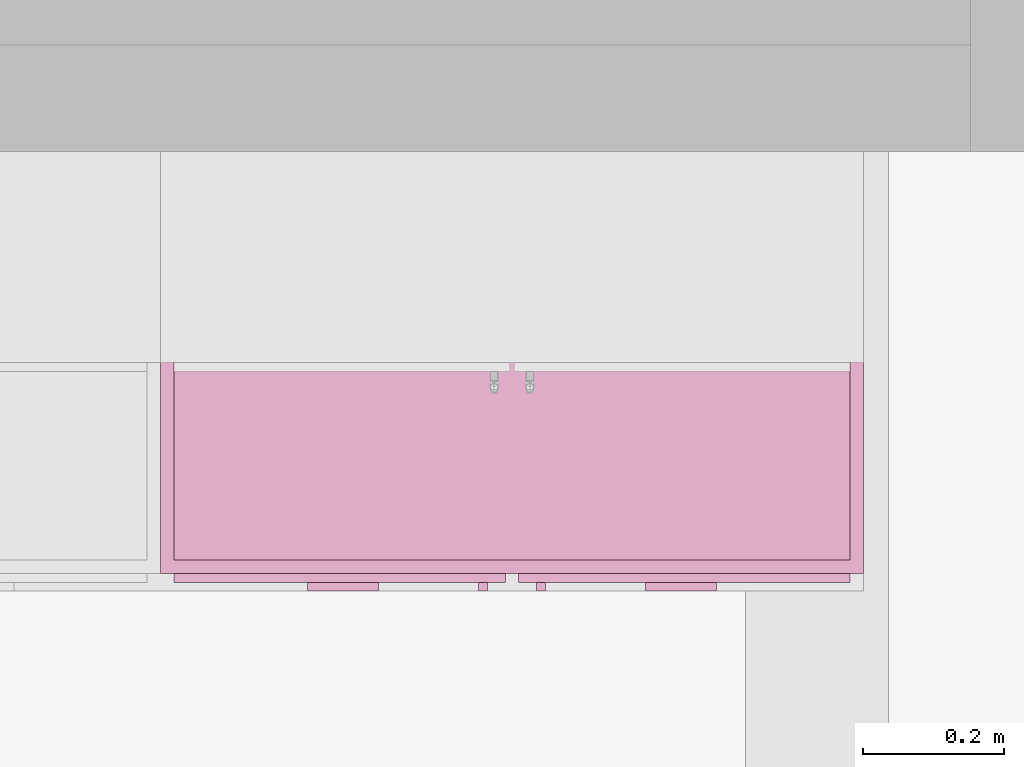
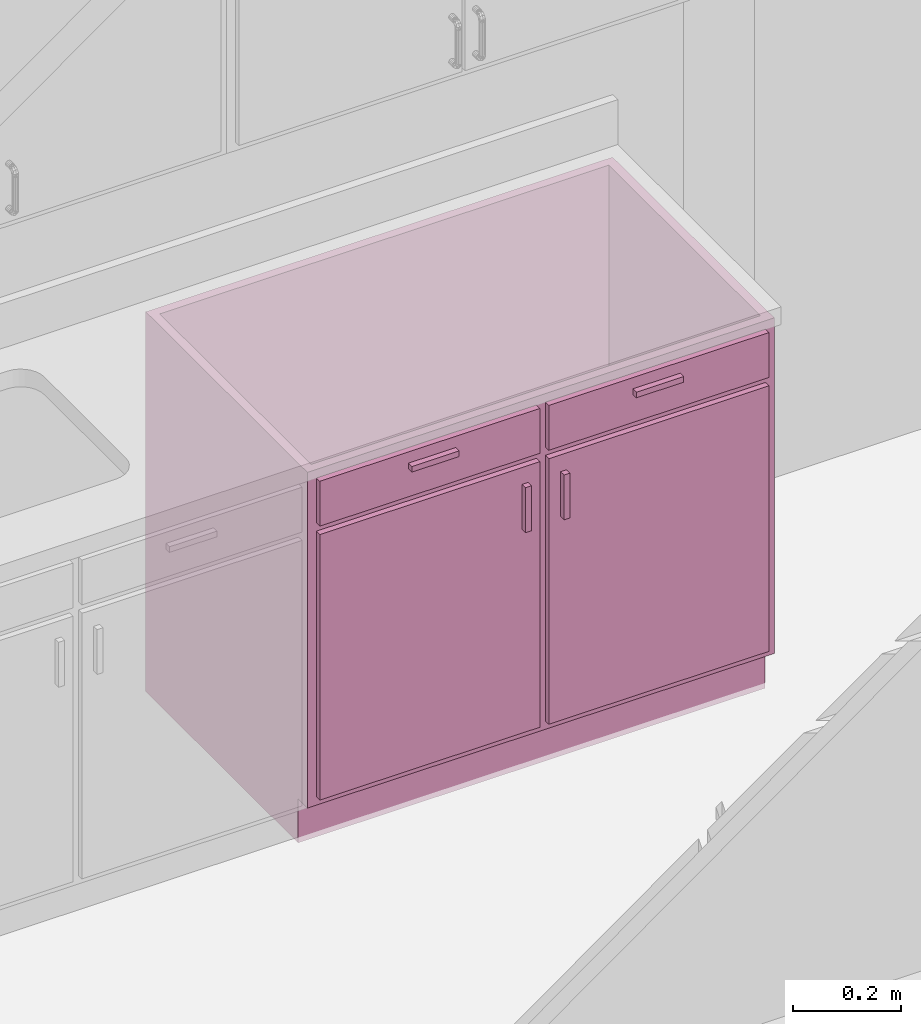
# One storey, part 7 of 14: 1 furnishing.
"""IFC4 building model written with IfcOpenShell, lengths in metres."""

from ifc_helpers import new_model, entity, si_unit, converted_unit, frame, origin, place, context, project, spatial, face_set, surface_model, source, transform, mapped, element, save


model = new_model("IFC4")

# Units and contexts
model_context = context("Model", 3, precision=1e-09, world=origin())
plan_context = context("Plan", 3, precision=1e-09, world=origin())
ifc_project = project(units=[si_unit("LENGTHUNIT", "METRE"), si_unit("AREAUNIT", "SQUARE_METRE"), si_unit("VOLUMEUNIT", "CUBIC_METRE"), converted_unit("PLANEANGLEUNIT", "DEGREE", entity("IfcRatioMeasure", 0.01745329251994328), si_unit("PLANEANGLEUNIT", "RADIAN"), dimensions=[0, 0, 0, 0, 0, 0, 0]), si_unit("TIMEUNIT", "SECOND")], contexts=[model_context, plan_context])

# Site, building, storey, space
site_placement = place(None, origin())
site = spatial("IfcSite", under=ifc_project, at=site_placement, Name="Default", CompositionType="ELEMENT")
building_placement = place(site_placement, origin())
building = spatial("IfcBuilding", under=site, at=building_placement, CompositionType="ELEMENT")
storey_placement = place(building_placement, origin())
storey = spatial("IfcBuildingStorey", under=building, at=storey_placement, Name="Level 1", CompositionType="ELEMENT", Elevation=0.0)
space_placement = place(storey_placement, origin())
space = spatial("IfcSpace", under=storey, at=space_placement, Name="A103", CompositionType="ELEMENT", PredefinedType="INTERNAL")

# Furnishing
shared_shape = source(origin(), model_context, "Body", "SurfaceModel", [
    surface_model("IfcFaceBasedSurfaceModel", [(0.9809499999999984, 0.04445000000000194, 0.8600000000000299), (0.9809499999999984, 0.04445000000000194, 0.0999999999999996), (0.01905000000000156, 0.04445000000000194, 0.0999999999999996), (0.01905000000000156, 0.04445000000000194, 0.8600000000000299), (1.0, 0.02540000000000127, 0.8600000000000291), (0.0, 0.02540000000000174, 0.8600000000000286), (1.0, 0.02540000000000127, 0.0999999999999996), (0.0, 0.02540000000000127, 0.09999999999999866), (0.01905000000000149, 0.606349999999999, 0.8600000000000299), (0.01905000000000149, 0.606349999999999, 0.09999999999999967), (0.01905000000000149, 0.06040000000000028, 0.0999999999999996), (0.0, 0.6253999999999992, 0.8600000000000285), (0.0, 0.6254000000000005, 0.0), (0.0, 0.06040000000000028, 0.0), (0.0, 0.06040000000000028, 0.09999999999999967), (0.9809499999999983, 0.6063499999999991, 0.8600000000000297), (0.9809499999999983, 0.6063499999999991, 0.09999999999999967), (1.0, 0.6253999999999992, 0.8600000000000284), (1.0, 0.6253999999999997, 0.0), (0.9809499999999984, 0.06040000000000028, 0.09999999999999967), (1.0, 0.06040000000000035, 0.09999999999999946), (1.0, 0.06040000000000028, 0.0), (0.3103250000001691, 0.0, 0.815550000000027), (0.3103250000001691, 0.0, 0.8028500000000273), (0.2087250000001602, 0.0, 0.8028500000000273), (0.2087250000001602, 0.0, 0.815550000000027), (0.7912750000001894, 0.0, 0.815550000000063), (0.7912750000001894, 0.0, 0.8028500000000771), (0.6896750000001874, 0.0, 0.8028500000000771), (0.6896750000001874, 0.0, 0.815550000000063), (0.4650750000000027, 0.0, 0.6822000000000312), (0.4650750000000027, 0.0, 0.5806000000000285), (0.4523750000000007, 0.0, 0.5806000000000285), (0.4523750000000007, 0.0, 0.6822000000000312), (0.5476249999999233, 0.0, 0.6822000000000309), (0.5476249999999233, 0.0, 0.5806000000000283), (0.5349249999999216, 0.0, 0.5806000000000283), (0.5349249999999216, 0.0, 0.6822000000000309), (0.3103250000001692, 0.01270000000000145, 0.815550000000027), (0.3103250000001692, 0.01270000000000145, 0.8028500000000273), (0.2087250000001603, 0.01270000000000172, 0.8028500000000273), (0.2087250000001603, 0.01270000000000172, 0.815550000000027), (0.7912750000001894, 0.01269999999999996, 0.815550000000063), (0.7912750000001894, 0.01269999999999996, 0.8028500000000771), (0.6896750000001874, 0.01270000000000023, 0.8028500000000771), (0.6896750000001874, 0.01270000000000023, 0.815550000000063), (0.4650750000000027, 0.0127000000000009, 0.6822000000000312), (0.4650750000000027, 0.0127000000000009, 0.5806000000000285), (0.4523750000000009, 0.0127000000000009, 0.5806000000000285), (0.4523750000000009, 0.0127000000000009, 0.6822000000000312), (0.5476249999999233, 0.01270000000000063, 0.6822000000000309), (0.5476249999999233, 0.01270000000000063, 0.5806000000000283), (0.5349249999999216, 0.01270000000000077, 0.5806000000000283), (0.5349249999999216, 0.01270000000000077, 0.6822000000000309), (0.4904749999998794, 0.0127000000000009, 0.840950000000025), (0.4904749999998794, 0.0127000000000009, 0.7393500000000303), (0.01905000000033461, 0.01270000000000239, 0.7393500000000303), (0.01905000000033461, 0.01270000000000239, 0.840950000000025), (0.9809500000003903, 0.01269999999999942, 0.8409500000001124), (0.9809500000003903, 0.01269999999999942, 0.7393500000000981), (0.509524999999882, 0.0127000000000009, 0.7393500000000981), (0.509524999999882, 0.0127000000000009, 0.8409500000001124), (0.4904749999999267, 0.0127000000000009, 0.7203000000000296), (0.4904749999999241, 0.0127000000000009, 0.119049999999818), (0.01905000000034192, 0.01270000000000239, 0.119049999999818), (0.01905000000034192, 0.01270000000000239, 0.7203000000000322), (0.9809500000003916, 0.01269999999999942, 0.7203000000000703), (0.9809500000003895, 0.01269999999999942, 0.1190499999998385), (0.5095249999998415, 0.0127000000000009, 0.1190499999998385), (0.5095249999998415, 0.0127000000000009, 0.7203000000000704), (0.4904749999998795, 0.02540000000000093, 0.840950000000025), (0.4904749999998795, 0.02540000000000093, 0.7393500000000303), (0.01905000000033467, 0.02540000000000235, 0.7393500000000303), (0.01905000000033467, 0.02540000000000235, 0.840950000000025), (0.9809500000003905, 0.02539999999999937, 0.8409500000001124), (0.9809500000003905, 0.02539999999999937, 0.7393500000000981), (0.5095249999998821, 0.02540000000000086, 0.7393500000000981), (0.5095249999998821, 0.02540000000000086, 0.8409500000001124), (0.4904749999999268, 0.02540000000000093, 0.7203000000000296), (0.4904749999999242, 0.02540000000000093, 0.119049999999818), (0.01905000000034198, 0.02540000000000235, 0.119049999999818), (0.01905000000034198, 0.02540000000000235, 0.7203000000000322), (0.9809500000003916, 0.02539999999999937, 0.7203000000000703), (0.9809500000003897, 0.02539999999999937, 0.1190499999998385), (0.5095249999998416, 0.02540000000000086, 0.1190499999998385), (0.5095249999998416, 0.02540000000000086, 0.7203000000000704), (0.9809499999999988, 0.6063499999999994, 0.1190499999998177), (0.9809499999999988, 0.04445000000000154, 0.1190499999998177), (0.01905000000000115, 0.04445000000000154, 0.1190499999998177), (0.01905000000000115, 0.6063499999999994, 0.1190499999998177), (0.9809499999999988, 0.6063499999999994, 0.09999999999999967), (0.9809499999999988, 0.04445000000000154, 0.09999999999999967), (0.01905000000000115, 0.04445000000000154, 0.09999999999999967), (0.01905000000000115, 0.6063499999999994, 0.09999999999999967)], [face_set([[[0, 1, 2, 3]], [[0, 4, 5, 3]], [[4, 6, 7, 5]], [[2, 1, 6, 7]], [[3, 8, 9, 10, 2]], [[5, 11, 8, 3]], [[7, 5, 11, 12, 13, 14]], [[2, 7, 14, 10]], [[8, 15, 16, 9]], [[11, 17, 15, 8]], [[12, 11, 17, 18]], [[1, 19, 16, 15, 0]], [[0, 15, 17, 4]], [[4, 6, 20, 21, 18, 17]], [[6, 1, 19, 20]], [[10, 9, 16, 19]], [[18, 21, 13, 12]], [[13, 14, 10, 19, 20, 21]]]), face_set([[[22, 23, 24, 25]], [[26, 27, 28, 29]], [[30, 31, 32, 33]], [[34, 35, 36, 37]], [[38, 39, 40, 41]], [[42, 43, 44, 45]], [[46, 47, 48, 49]], [[50, 51, 52, 53]], [[25, 41, 38, 22]], [[24, 40, 41, 25]], [[23, 24, 40, 39]], [[22, 23, 39, 38]], [[29, 45, 42, 26]], [[28, 44, 45, 29]], [[27, 28, 44, 43]], [[26, 27, 43, 42]], [[33, 49, 46, 30]], [[32, 48, 49, 33]], [[31, 32, 48, 47]], [[30, 31, 47, 46]], [[37, 53, 50, 34]], [[36, 52, 53, 37]], [[35, 36, 52, 51]], [[34, 35, 51, 50]]]), face_set([[[54, 55, 56, 57]], [[58, 59, 60, 61]], [[62, 63, 64, 65]], [[66, 67, 68, 69]], [[70, 71, 72, 73]], [[74, 75, 76, 77]], [[78, 79, 80, 81]], [[82, 83, 84, 85]], [[57, 73, 70, 54]], [[56, 57, 73, 72]], [[55, 56, 72, 71]], [[54, 55, 71, 70]], [[61, 77, 74, 58]], [[60, 76, 77, 61]], [[59, 60, 76, 75]], [[58, 59, 75, 74]], [[65, 81, 78, 62]], [[64, 65, 81, 80]], [[63, 64, 80, 79]], [[62, 63, 79, 78]], [[69, 85, 82, 66]], [[68, 84, 85, 69]], [[67, 68, 84, 83]], [[66, 67, 83, 82]]]), face_set([[[86, 87, 88, 89]], [[90, 91, 92, 93]], [[89, 86, 90, 93]], [[88, 89, 93, 92]], [[87, 91, 92, 88]], [[86, 87, 91, 90]]])]),
])
furnishing_placement = place(space_placement, frame((3.465999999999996, -10.99540000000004, 0.0)))
element("IfcFurnishingElement", 1, at=furnishing_placement, inside=space, Name="M_Base Cabinet-Double Door & 2 Drawer:1000mm:1000mm", ObjectType="1000mm", context=model_context, shape_type="MappedRepresentation", body=[
    mapped(shared_shape, transform((0.0, 0.0, 0.0), scale=1.0)),
])

save(model, "model.ifc")
